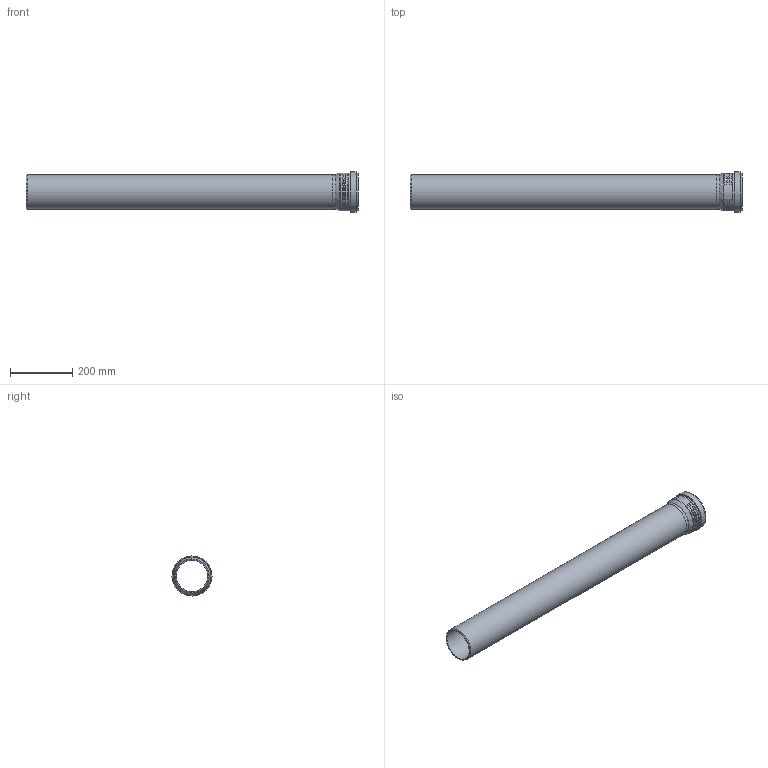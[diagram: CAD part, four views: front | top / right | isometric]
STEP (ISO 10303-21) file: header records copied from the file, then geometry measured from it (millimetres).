
FILE_DESCRIPTION(/* description */ (''),/* implementation_level */ '2;1');
FILE_NAME(/* name */ 'H:\Geberit-Teile\Export\PP_Rohr\stp\393504.stp',/* time_stamp */ '2017-02-13T16:08:28+01:00',/* author */ ('seihe2'),/* organization */ (''),/* preprocessor_version */ 'ST-DEVELOPER v15.2',/* originating_system */ 'Autodesk Inventor 2014',/* authorisation */ '');
FILE_SCHEMA (('AUTOMOTIVE_DESIGN { 1 0 10303 214 3 1 1 }'));
Length unit declared in the file: millimetre
Products named in the file (1): 393504
Bounding box: 1068.1 x 128.7 x 128.7 mm (x, y, z)
Volume: 1629243.3 mm3; surface area: 736752.4 mm2
Topology: 2 solids, 2 shells, 38 faces, 81 edges, 56 vertices
Faces by surface type: torus 17, cylinder 10, plane 8, cone 2, bspline 1
Full cylindrical faces by diameter (mm): 101.2 x2, 110.2 x2, 111.1 x1, 113.7 x1, 119.5 x1, 121.3 x1, 122.1 x1, 128.7 x1
Entity records: 2113 total; most frequent: CARTESIAN_POINT 1334, DIRECTION 130, ORIENTED_EDGE 124, EDGE_LOOP 69, AXIS2_PLACEMENT_3D 65, EDGE_CURVE 62, VERTEX_POINT 55, STYLED_ITEM 40
